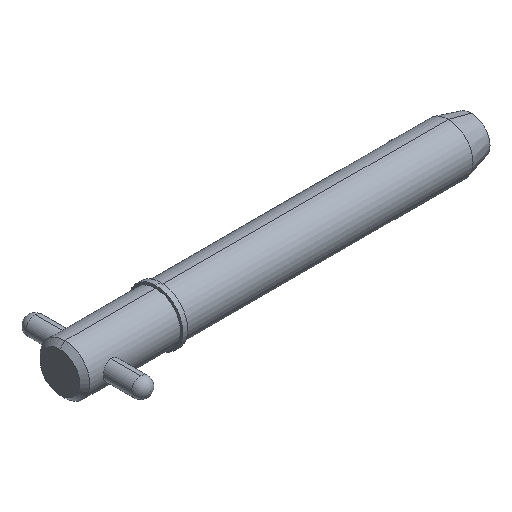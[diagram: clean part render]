
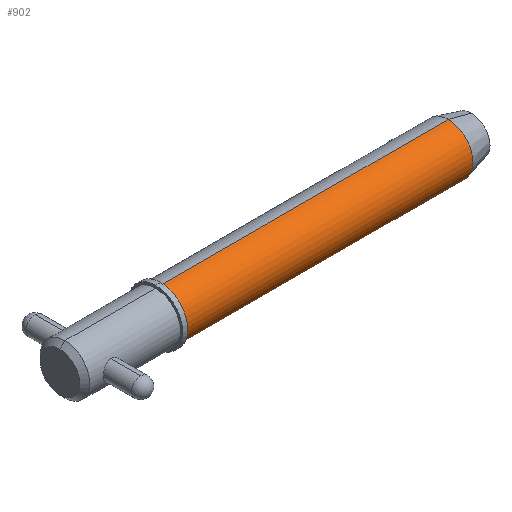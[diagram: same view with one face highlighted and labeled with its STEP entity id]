
A CAD part, isometric view. The second image highlights one B-rep face of the part: STEP entity #902.
In plain terms, the highlighted cylindrical face has radius 6.35 mm (diameter 12.7 mm), a partial arc.
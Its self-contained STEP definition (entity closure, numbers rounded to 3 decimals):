
#4 = DIRECTION ( 'NONE',  ( 0., 0., -1. ) ) ;
#33 = EDGE_LOOP ( 'NONE', ( #335, #325, #906, #403 ) ) ;
#36 = EDGE_CURVE ( 'NONE', #634, #889, #344, .T. ) ;
#37 = VECTOR ( 'NONE', #981, 1000. ) ;
#48 = CARTESIAN_POINT ( 'NONE',  ( 25.7, 0., 0. ) ) ;
#70 = CIRCLE ( 'NONE', #108, 6.35 ) ;
#77 = DIRECTION ( 'NONE',  ( 1., 0., 0. ) ) ;
#108 = AXIS2_PLACEMENT_3D ( 'NONE', #881, #77, #545 ) ;
#162 = DIRECTION ( 'NONE',  ( 1., 0., 0. ) ) ;
#169 = CARTESIAN_POINT ( 'NONE',  ( 99.155, 0., -6.35 ) ) ;
#184 = CARTESIAN_POINT ( 'NONE',  ( 0., 0., 0. ) ) ;
#325 = ORIENTED_EDGE ( 'NONE', *, *, #554, .T. ) ;
#327 = CARTESIAN_POINT ( 'NONE',  ( 99.155, 0., 6.35 ) ) ;
#335 = ORIENTED_EDGE ( 'NONE', *, *, #36, .F. ) ;
#341 = CARTESIAN_POINT ( 'NONE',  ( 25.7, 0., -6.35 ) ) ;
#344 = LINE ( 'NONE', #762, #37 ) ;
#361 = DIRECTION ( 'NONE',  ( 0., 0., -1. ) ) ;
#365 = EDGE_CURVE ( 'NONE', #479, #794, #875, .T. ) ;
#373 = AXIS2_PLACEMENT_3D ( 'NONE', #184, #162, #4 ) ;
#403 = ORIENTED_EDGE ( 'NONE', *, *, #682, .F. ) ;
#479 = VERTEX_POINT ( 'NONE', #341 ) ;
#533 = CARTESIAN_POINT ( 'NONE',  ( 25.7, 0., 6.35 ) ) ;
#545 = DIRECTION ( 'NONE',  ( 0., 0., -1. ) ) ;
#554 = EDGE_CURVE ( 'NONE', #634, #479, #923, .T. ) ;
#564 = FACE_OUTER_BOUND ( 'NONE', #33, .T. ) ;
#634 = VERTEX_POINT ( 'NONE', #533 ) ;
#682 = EDGE_CURVE ( 'NONE', #889, #794, #70, .T. ) ;
#712 = CARTESIAN_POINT ( 'NONE',  ( 0., 0., -6.35 ) ) ;
#736 = AXIS2_PLACEMENT_3D ( 'NONE', #48, #925, #361 ) ;
#762 = CARTESIAN_POINT ( 'NONE',  ( 0., 0., 6.35 ) ) ;
#794 = VERTEX_POINT ( 'NONE', #169 ) ;
#875 = LINE ( 'NONE', #712, #994 ) ;
#881 = CARTESIAN_POINT ( 'NONE',  ( 99.155, 0., 0. ) ) ;
#889 = VERTEX_POINT ( 'NONE', #327 ) ;
#901 = CYLINDRICAL_SURFACE ( 'NONE', #373, 6.35 ) ;
#902 = ADVANCED_FACE ( 'NONE', ( #564 ), #901, .T. ) ;
#906 = ORIENTED_EDGE ( 'NONE', *, *, #365, .T. ) ;
#923 = CIRCLE ( 'NONE', #736, 6.35 ) ;
#925 = DIRECTION ( 'NONE',  ( 1., 0., 0. ) ) ;
#944 = DIRECTION ( 'NONE',  ( 1., 0., 0. ) ) ;
#981 = DIRECTION ( 'NONE',  ( 1., 0., 0. ) ) ;
#994 = VECTOR ( 'NONE', #944, 1000. ) ;
